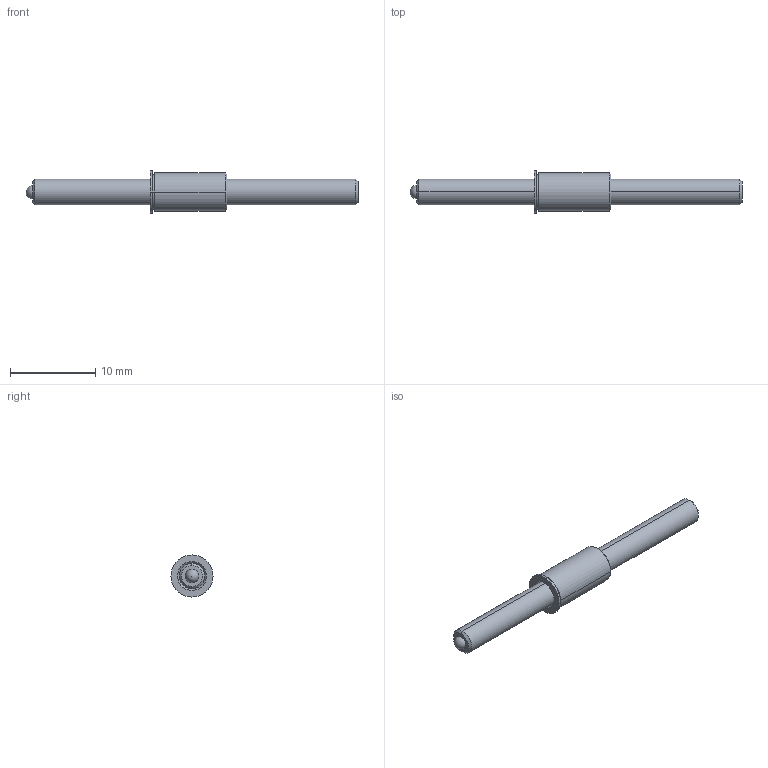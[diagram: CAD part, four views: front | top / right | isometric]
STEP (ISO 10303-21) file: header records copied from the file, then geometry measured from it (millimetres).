
FILE_DESCRIPTION (( 'STEP AP214' ), '1' );
FILE_NAME ('TSBM3-25-39_9.STEP', '2013-03-15T10:16:56', ( 'workpc' ), ( 'Microsoft' ), 'SwSTEP 2.0', 'SolidWorks 2013', '' );
FILE_SCHEMA (( 'AUTOMOTIVE_DESIGN' ));
Length unit declared in the file: inch
Products named in the file (1): TSBM3-25-39_9
Bounding box: 39 x 4.95 x 4.95 mm (x, y, z)
Surface area: 542.7 mm2 (no closed solid volume)
Topology: 0 solids, 3 shells, 32 faces, 75 edges, 49 vertices
Faces by surface type: plane 12, cone 10, cylinder 8, sphere 2
Entity records: 1325 total; most frequent: DIRECTION 170, CARTESIAN_POINT 149, ORIENTED_EDGE 128, EDGE_CURVE 70, AXIS2_PLACEMENT_3D 67, VERTEX_POINT 46, EDGE_LOOP 38, LINE 36
